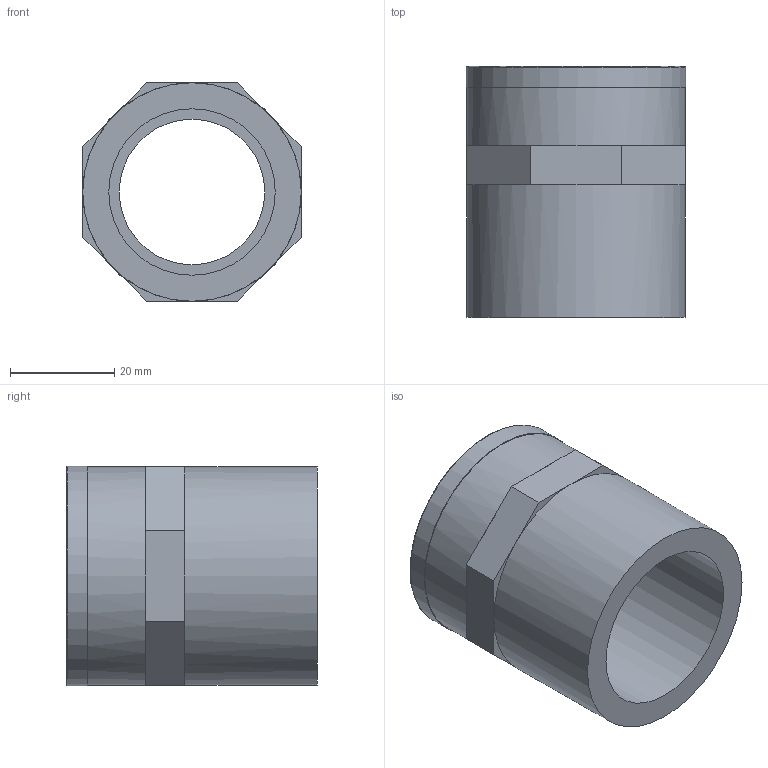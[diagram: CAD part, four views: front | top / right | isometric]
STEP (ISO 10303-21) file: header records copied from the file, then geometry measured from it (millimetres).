
FILE_DESCRIPTION(/* description */ (''),/* implementation_level */ '2;1');
FILE_NAME(/* name */ 'C:\Users\POLYPIPE\Desktop\DATASET INVENTOR\LIBRERIA EFFAST\RACCORDI 3DxWEB\RGR\3D_RGRMAR\3D_RGRMAR032D.stp',/* time_stamp */ '2018-01-19T17:52:35+01:00',/* author */ ('POLYPIPE'),/* organization */ (''),/* preprocessor_version */ 'ST-DEVELOPER v16.1',/* originating_system */ 'Autodesk Inventor 2016',/* authorisation */ '');
FILE_SCHEMA (('CONFIG_CONTROL_DESIGN'));
Length unit declared in the file: centimetre
Products named in the file (1): 3D_RGRMAR032D
Bounding box: 42.29 x 48.25 x 42.29 mm (x, y, z)
Volume: 29831.3 mm3; surface area: 14120.4 mm2
Topology: 1 solids, 1 shells, 44 faces, 92 edges, 54 vertices
Faces by surface type: plane 31, cylinder 7, bspline 5, torus 1
Full cylindrical faces by diameter (mm): 28 x1, 30.291 x1, 32 x1, 37 x1, 42 x2, 42.3 x1
Entity records: 4192 total; most frequent: CARTESIAN_POINT 3211, DIRECTION 185, ORIENTED_EDGE 170, EDGE_CURVE 85, AXIS2_PLACEMENT_3D 71, EDGE_LOOP 57, VERTEX_POINT 54, STYLED_ITEM 45
